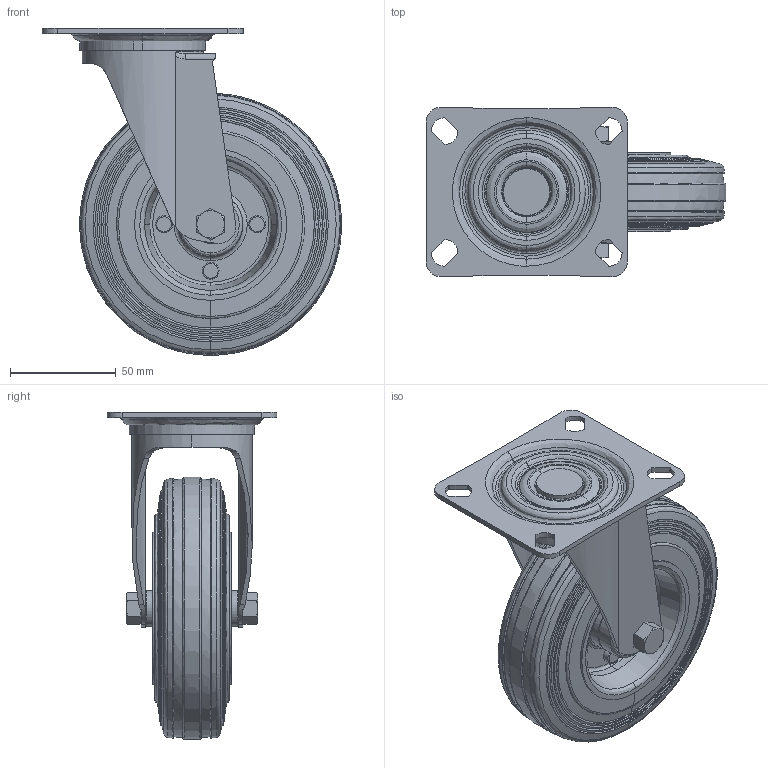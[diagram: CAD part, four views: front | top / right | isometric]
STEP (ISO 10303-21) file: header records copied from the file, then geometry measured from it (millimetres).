
FILE_DESCRIPTION (( 'STEP AP214' ), '1' );
FILE_NAME ('R207125.T35P080X060.STEP', '2022-02-25T09:07:52', ( '' ), ( '' ), 'SwSTEP 2.0', 'SolidWorks 2020', '' );
FILE_SCHEMA (( 'AUTOMOTIVE_DESIGN' ));
Length unit declared in the file: millimetre
Products named in the file (1): R207125.T35P080X060
Bounding box: 141.59 x 79.99 x 154.49 mm (x, y, z)
Volume: 387491.5 mm3; surface area: 129543.3 mm2
Topology: 16 solids, 16 shells, 569 faces, 1246 edges, 749 vertices
Faces by surface type: bspline 198, cylinder 168, plane 109, cone 94
Entity records: 30361 total; most frequent: CARTESIAN_POINT 12044, DIRECTION 2534, ORIENTED_EDGE 2488, EDGE_CURVE 1244, AXIS2_PLACEMENT_3D 1108, VERTEX_POINT 749, CIRCLE 736, EDGE_LOOP 641
